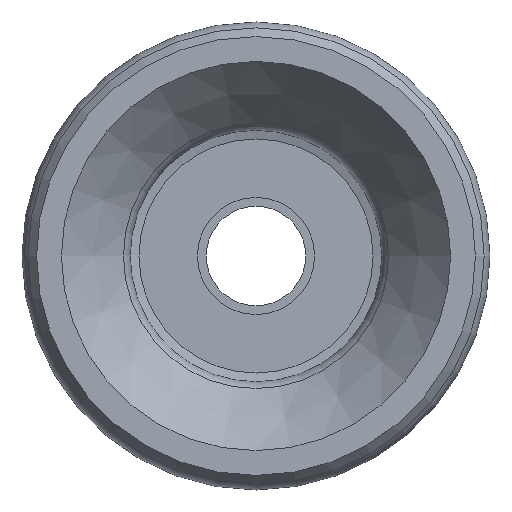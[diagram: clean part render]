
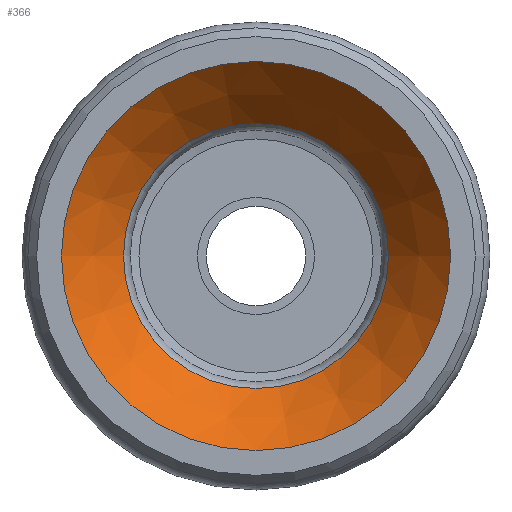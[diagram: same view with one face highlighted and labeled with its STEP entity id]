
A CAD part, front view. The second image highlights one B-rep face of the part: STEP entity #366.
In plain terms, the highlighted conical face has half-angle 39.619 degrees and reference radius 5.59 mm.
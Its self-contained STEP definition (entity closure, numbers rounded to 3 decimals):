
#21 = AXIS2_PLACEMENT_3D ( 'NONE', #314, #345, #103 ) ;
#22 = FACE_BOUND ( 'NONE', #173, .T. ) ;
#50 = FACE_OUTER_BOUND ( 'NONE', #57, .T. ) ;
#55 = DIRECTION ( 'NONE',  ( -1., 0., 0. ) ) ;
#57 = EDGE_LOOP ( 'NONE', ( #128 ) ) ;
#103 = DIRECTION ( 'NONE',  ( 1., 0., 0. ) ) ;
#128 = ORIENTED_EDGE ( 'NONE', *, *, #375, .F. ) ;
#143 = CONICAL_SURFACE ( 'NONE', #250, 5.59, 0.691 ) ;
#173 = EDGE_LOOP ( 'NONE', ( #313 ) ) ;
#201 = CARTESIAN_POINT ( 'NONE',  ( 4.53, 2.562, 0. ) ) ;
#213 = DIRECTION ( 'NONE',  ( 0., 1., 0. ) ) ;
#229 = DIRECTION ( 'NONE',  ( 0., -1., 0. ) ) ;
#250 = AXIS2_PLACEMENT_3D ( 'NONE', #347, #229, #55 ) ;
#279 = VERTEX_POINT ( 'NONE', #201 ) ;
#284 = CIRCLE ( 'NONE', #371, 4.53 ) ;
#295 = DIRECTION ( 'NONE',  ( 1., 0., 0. ) ) ;
#305 = EDGE_CURVE ( 'NONE', #279, #279, #284, .T. ) ;
#313 = ORIENTED_EDGE ( 'NONE', *, *, #305, .T. ) ;
#314 = CARTESIAN_POINT ( 'NONE',  ( 0., 0., 0. ) ) ;
#316 = CARTESIAN_POINT ( 'NONE',  ( 6.651, 0., 0. ) ) ;
#343 = VERTEX_POINT ( 'NONE', #316 ) ;
#345 = DIRECTION ( 'NONE',  ( 0., 1., 0. ) ) ;
#347 = CARTESIAN_POINT ( 'NONE',  ( 0., 1.281, 0. ) ) ;
#358 = CIRCLE ( 'NONE', #21, 6.651 ) ;
#363 = CARTESIAN_POINT ( 'NONE',  ( 0., 2.562, 0. ) ) ;
#366 = ADVANCED_FACE ( 'NONE', ( #22, #50 ), #143, .F. ) ;
#371 = AXIS2_PLACEMENT_3D ( 'NONE', #363, #213, #295 ) ;
#375 = EDGE_CURVE ( 'NONE', #343, #343, #358, .T. ) ;
